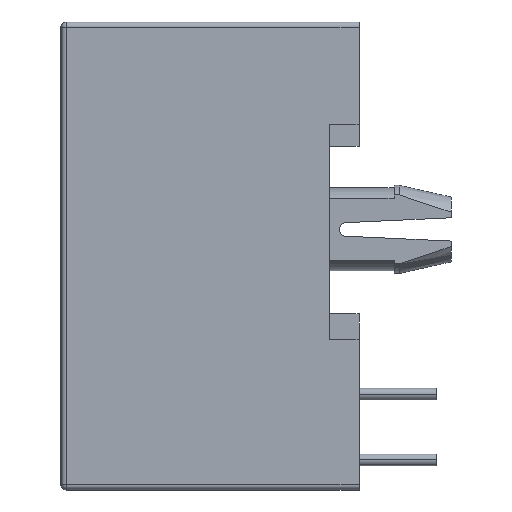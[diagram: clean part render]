
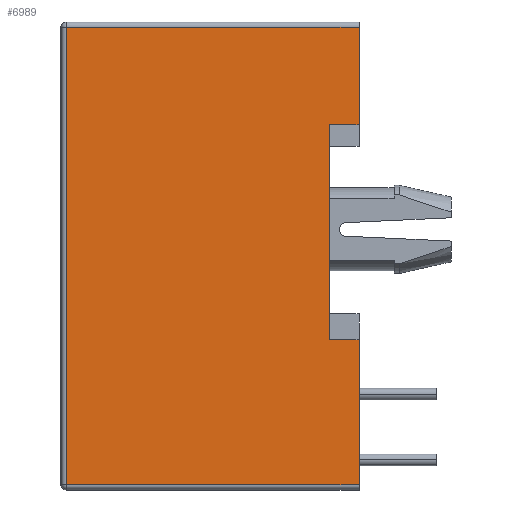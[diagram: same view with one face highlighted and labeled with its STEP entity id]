
A CAD part, left-side view. The second image highlights one B-rep face of the part: STEP entity #6989.
In plain terms, the highlighted planar face has unit normal (-1, 0, 0).
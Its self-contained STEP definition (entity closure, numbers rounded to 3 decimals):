
#1521=DIRECTION('',(0.,-1.,0.));
#1522=VECTOR('',#1521,11.3);
#1523=CARTESIAN_POINT('',(-6.65,5.475,8.85));
#1524=LINE('',#1523,#1522);
#1525=DIRECTION('',(0.,0.,-1.));
#1526=VECTOR('',#1525,3.77);
#1527=CARTESIAN_POINT('',(-6.65,-5.825,8.85));
#1528=LINE('',#1527,#1526);
#1529=DIRECTION('',(0.,1.,0.));
#1530=VECTOR('',#1529,1.15);
#1531=CARTESIAN_POINT('',(-6.65,-5.825,5.08));
#1532=LINE('',#1531,#1530);
#1533=DIRECTION('',(0.,0.,-1.));
#1534=VECTOR('',#1533,8.28);
#1535=CARTESIAN_POINT('',(-6.65,-4.675,5.08));
#1536=LINE('',#1535,#1534);
#1537=DIRECTION('',(0.,-1.,0.));
#1538=VECTOR('',#1537,1.15);
#1539=CARTESIAN_POINT('',(-6.65,-4.675,-3.2));
#1540=LINE('',#1539,#1538);
#1541=DIRECTION('',(0.,1.,0.));
#1542=VECTOR('',#1541,11.3);
#1543=CARTESIAN_POINT('',(-6.65,-5.825,-8.8));
#1544=LINE('',#1543,#1542);
#1545=DIRECTION('',(0.,0.,1.));
#1546=VECTOR('',#1545,17.65);
#1547=CARTESIAN_POINT('',(-6.65,5.475,-8.8));
#1548=LINE('',#1547,#1546);
#1743=DIRECTION('',(0.,0.,1.));
#1744=VECTOR('',#1743,5.6);
#1745=CARTESIAN_POINT('',(-6.65,-5.825,-8.8));
#1746=LINE('',#1745,#1744);
#4232=CARTESIAN_POINT('',(-6.65,-5.825,-3.2));
#4234=VERTEX_POINT('',#4232);
#4628=CARTESIAN_POINT('',(-6.65,-5.825,5.08));
#4629=VERTEX_POINT('',#4628);
#4644=CARTESIAN_POINT('',(-6.65,-4.675,5.08));
#4645=CARTESIAN_POINT('',(-6.65,-4.675,-3.2));
#4646=VERTEX_POINT('',#4644);
#4647=VERTEX_POINT('',#4645);
#5104=CARTESIAN_POINT('',(-6.65,5.475,8.85));
#5105=VERTEX_POINT('',#5104);
#5107=CARTESIAN_POINT('',(-6.65,-5.825,8.85));
#5109=VERTEX_POINT('',#5107);
#5178=CARTESIAN_POINT('',(-6.65,-5.825,-8.8));
#5180=VERTEX_POINT('',#5178);
#5184=CARTESIAN_POINT('',(-6.65,5.475,-8.8));
#5185=VERTEX_POINT('',#5184);
#6970=CARTESIAN_POINT('',(-6.65,-0.175,0.025));
#6971=DIRECTION('',(1.,0.,0.));
#6972=DIRECTION('',(0.,-1.,0.));
#6973=AXIS2_PLACEMENT_3D('',#6970,#6971,#6972);
#6974=PLANE('',#6973);
#6975=ORIENTED_EDGE('',*,*,#6707,.T.);
#6976=ORIENTED_EDGE('',*,*,#6733,.T.);
#6978=ORIENTED_EDGE('',*,*,#6977,.T.);
#6979=ORIENTED_EDGE('',*,*,#6939,.T.);
#6981=ORIENTED_EDGE('',*,*,#6980,.T.);
#6983=ORIENTED_EDGE('',*,*,#6982,.F.);
#6985=ORIENTED_EDGE('',*,*,#6984,.T.);
#6986=ORIENTED_EDGE('',*,*,#6680,.T.);
#6987=EDGE_LOOP('',(#6975,#6976,#6978,#6979,#6981,#6983,#6985,#6986));
#6988=FACE_OUTER_BOUND('',#6987,.F.);
#6989=ADVANCED_FACE('',(#6988),#6974,.F.);
#6680=EDGE_CURVE('',#5185,#5105,#1548,.T.);
#6707=EDGE_CURVE('',#5105,#5109,#1524,.T.);
#6733=EDGE_CURVE('',#5109,#4629,#1528,.T.);
#6939=EDGE_CURVE('',#4646,#4647,#1536,.T.);
#6977=EDGE_CURVE('',#4629,#4646,#1532,.T.);
#6980=EDGE_CURVE('',#4647,#4234,#1540,.T.);
#6982=EDGE_CURVE('',#5180,#4234,#1746,.T.);
#6984=EDGE_CURVE('',#5180,#5185,#1544,.T.);
